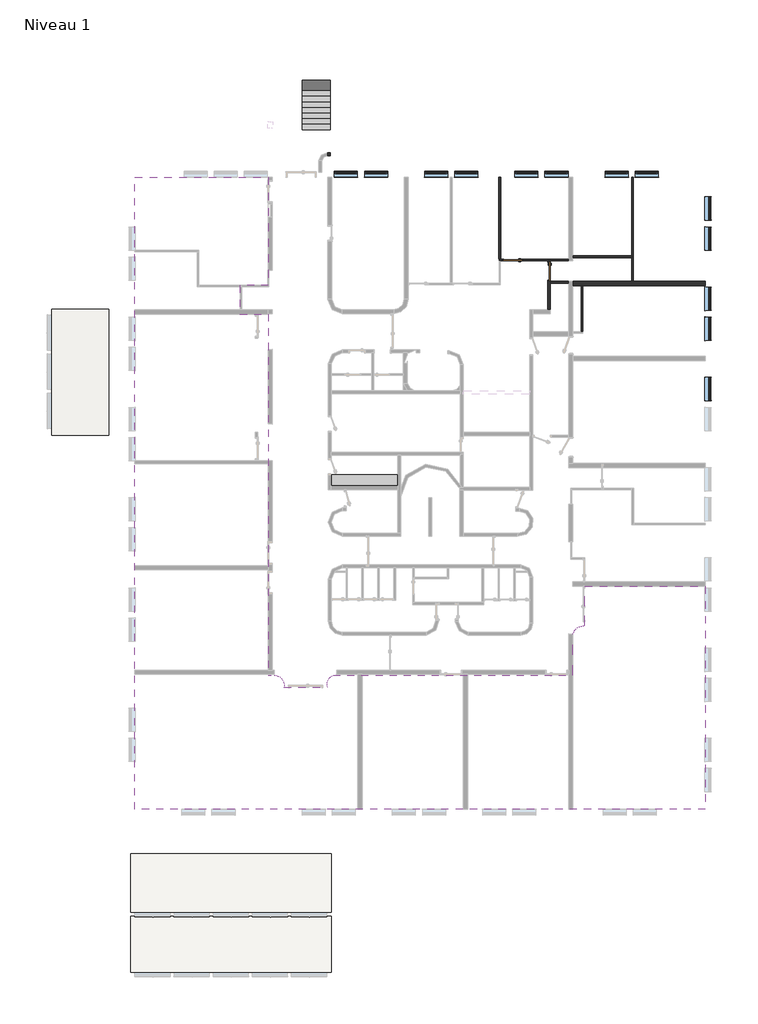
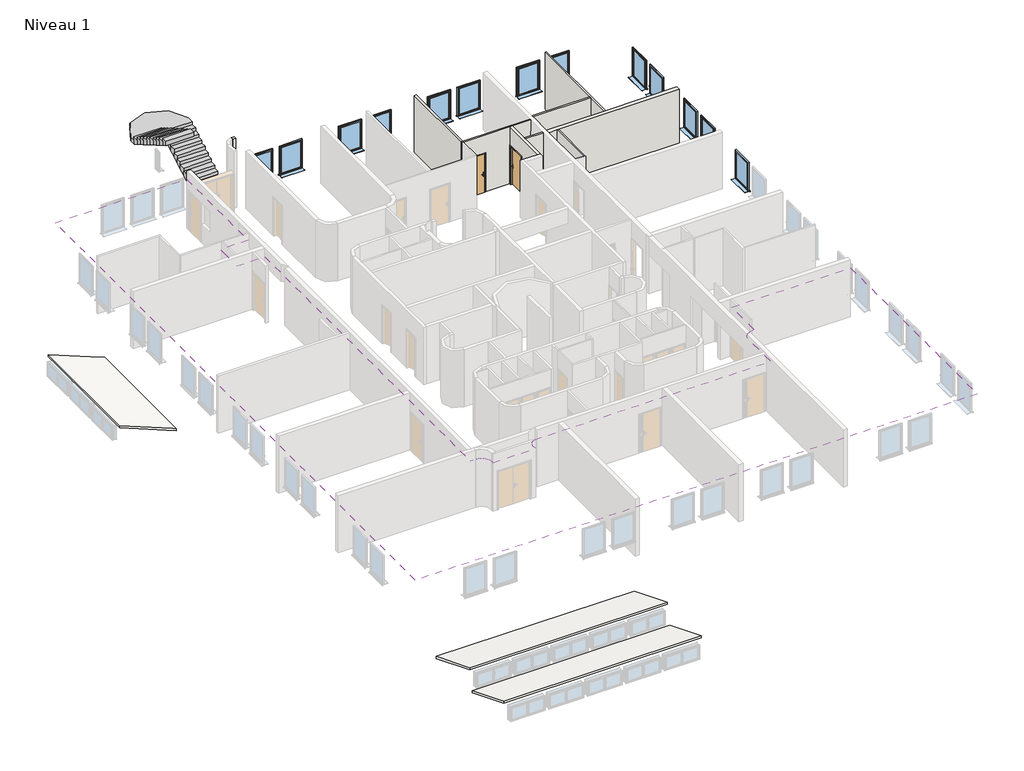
# One storey, part 5 of 5: 13 windows, 9 walls, 3 slabs, 2 doors, 1 covering, 1 proxy, 1 stair flight.
"""IFC4 building model written with IfcOpenShell, lengths in millimetres."""

from ifc_helpers import new_model, si_unit, point, frame, frame_2d, origin, place, context, project, spatial, polyline, circle_curve, ellipse_curve, trimmed, segment, composite_curve, outline, extrude, faceted_brep, transform, mapped, element, save
from ifc_brep_helpers import plane_surface, cylinder_surface, advanced_brep
from components import generic_models_af12e95c, door_1f1bc939, door_e56fa8e8, window_115_x_155_cm_24c5beae

model = new_model("IFC4")

# Units and contexts
model_context = context("Model", 3, world=origin())
ifc_project = project(units=[si_unit("LENGTHUNIT", "METRE", prefix="MILLI")], contexts=[model_context])

# Site, building, storey
site = spatial("IfcSite", under=ifc_project)
building = spatial("IfcBuilding", under=site)
storey = spatial("IfcBuildingStorey", under=building, Name="Niveau 1", Elevation=4121.8727639)

# Proxy
placement = place(None, origin())
generic_models_shape = generic_models_af12e95c(model_context)
element("IfcBuildingElementProxy", 1, Name="Plan de travail : Plan de travail", ObjectType="Plan de travail : Plan de travail", at=placement, inside=storey, context=model_context, shape_type="MappedRepresentation", body=[
    mapped(generic_models_shape, transform((0.0, 0.0, 760.0), x_axis=(1.0, 0.0, 0.0), y_axis=(0.0, 1.0, 0.0), z_axis=(0.0, 0.0, 1.0))),
])

# Covering
element("IfcCovering", 2, ObjectType="Normal", at=placement, inside=storey, context=model_context, shape_type="SweptSolid", body=[
    extrude(outline(composite_curve([segment(polyline([(-25593.9891731, -20956.25307), (-25593.9891731, 10570.8848592), (-18943.9891692, 10570.8848592), (-18943.9891515, 5170.8848591), (-20348.9891725, 5170.8848591), (-20348.9891725, 3740.884859), (-18943.9891466, 3740.884859), (-18944.0938653, -14269.1151394), (-18647.3087085, -14269.1151394)]), True, "CONTINUOUS"), segment(trimmed(circle_curve(frame_2d((-18651.5386239, -14774.0974241)), 505.0), [point((-18647.3087085, -14269.1151394))], [point((-18156.4904978, -14873.8589036))], False, "CARTESIAN"), True, "CONTINUOUS"), segment(polyline([(-18156.4904978, -14873.8589036), (-15983.4406805, -14873.8589036)]), True, "CONTINUOUS"), segment(trimmed(circle_curve(frame_2d((-15498.6625765, -14732.3838531)), 505.0), [point((-15983.4406805, -14873.8589036))], [point((-15699.6777475, -14269.1151394))], False, "CARTESIAN"), True, "CONTINUOUS"), segment(polyline([(-15699.6777475, -14269.1151394), (-3743.989174, -14269.1151394), (-3743.989174, -12231.7051111)]), True, "CONTINUOUS"), segment(trimmed(circle_curve(frame_2d((-3221.1378545, -12340.8568076)), 534.1232022), [point((-3743.989174, -12231.7051111))], [point((-3165.019318, -11809.68988))], False, "CARTESIAN"), True, "CONTINUOUS"), segment(polyline([(-3165.019318, -11809.68988), (-3165.019318, -9833.749432), (2847.4682683, -9833.7494331), (2847.4682683, -20956.25307), (-25593.9891731, -20956.25307)]), True, "CONTINUOUS")], self_intersect=False)), frame((0.0, 0.0, 6721.8727639), z_axis=(0.0, 0.0, 1.0), x_axis=(1.0, 0.0, 0.0)), (0.0, 0.0, 1.0), 50.0),
    extrude(outline(composite_curve([segment(polyline([(-15765.2391705, 10570.8848592), (2847.4682683, 10570.8848592), (2847.4682683, 5380.8848591), (-3743.989174, 5380.8848592), (-3743.989174, 6492.9785501), (-7443.5797272, 6492.9785501), (-7443.5797272, 5283.177026), (-12166.8528967, 5283.177026), (-12166.8528967, 4460.906658)]), True, "CONTINUOUS"), segment(trimmed(circle_curve(frame_2d((-12691.8542795, 4460.8830204)), 525.0013833), [point((-12166.8528967, 4460.906658))], [point((-12691.8542795, 3935.8816371))], False, "CARTESIAN"), True, "CONTINUOUS"), segment(polyline([(-12691.8542795, 3935.8816371), (-15180.2402775, 3935.8816371)]), True, "CONTINUOUS"), segment(trimmed(circle_curve(frame_2d((-15180.2402775, 4460.8783193)), 524.9966822), [point((-15180.2402775, 3935.8816371))], [point((-15705.2369597, 4460.8783193))], False, "CARTESIAN"), True, "CONTINUOUS"), segment(polyline([(-15705.2369597, 4460.8783193), (-15765.2391705, 10570.8848592)]), True, "CONTINUOUS")], self_intersect=False), holes=[polyline([(-820.3941617, 6652.9785501), (-3743.989174, 6652.9785501), (-3743.989174, 6552.9785501), (-820.3941617, 6552.9785501), (-820.3941617, 6652.9785501)])]), frame((0.0, 0.0, 6721.8727639), z_axis=(0.0, 0.0, 1.0), x_axis=(1.0, 0.0, 0.0)), (0.0, 0.0, 1.0), 50.0),
    extrude(outline(polyline([(-3165.019318, -8418.749432), (-3743.989174, -8418.749432), (-3743.989174, -3920.6566666), (2847.4682683, -3920.6566667), (2847.4682683, -9613.7494331), (-3165.019318, -9613.749432), (-3165.019318, -8418.749432)]), holes=[polyline([(-2240.3941617, -5024.1151408), (-815.3941617, -5024.1151408), (-815.3941617, -4954.1151408), (-2240.3941617, -4954.1151408), (-2240.3941617, -5024.1151408)])]), frame((0.0, 0.0, 6721.8727639), z_axis=(0.0, 0.0, 1.0), x_axis=(1.0, 0.0, 0.0)), (0.0, 0.0, 1.0), 50.0),
    extrude(outline(polyline([(-3743.989174, 5160.8848592), (2847.4682683, 5160.8848591), (2847.4682683, 1630.8848592), (-3743.989174, 1630.8848592), (-3743.989174, 5160.8848592)])), frame((0.0, 0.0, 6721.8727639), z_axis=(0.0, 0.0, 1.0), x_axis=(1.0, 0.0, 0.0)), (0.0, 0.0, 1.0), 50.0),
    extrude(outline(polyline([(-3743.989174, 1410.8848592), (2847.4682683, 1410.8848592), (2847.4682683, -3700.6566667), (-3743.989174, -3700.6566666), (-3743.989174, 1410.8848592)])), frame((0.0, 0.0, 6721.8727639), z_axis=(0.0, 0.0, 1.0), x_axis=(1.0, 0.0, 0.0)), (0.0, 0.0, 1.0), 50.0),
])

# Doors
door_shape = door_1f1bc939(model_context)
element("IfcDoor", 3, ObjectType="@_Int. Simple : @_PP (0.93m x 2.04m)", at=placement, inside=storey, context=model_context, shape_type="MappedRepresentation", body=[
    mapped(door_shape, transform((-4942.6180434, 5842.9785501, 4121.8727639), x_axis=(0.0, -1.0, 0.0), y_axis=(1.0, 0.0, 0.0), z_axis=(0.0, 0.0, 1.0))),
])
door_2_shape = door_e56fa8e8(model_context)
element("IfcDoor", 4, ObjectType="@_Int. Simple : @_PP (0.93m x 2.04m)", at=placement, inside=storey, context=model_context, shape_type="MappedRepresentation", body=[
    mapped(door_2_shape, transform((-6778.5797272, 6442.9785501, 4121.8727639), x_axis=(-1.0, 0.0, 0.0), y_axis=(0.0, -1.0, 0.0), z_axis=(0.0, 0.0, 1.0))),
])

# Slabs
element("IfcSlab", 5, ObjectType="étanchéité terrasse 100mm", at=placement, inside=storey, context=model_context, shape_type="Brep", body=[
    faceted_brep([(-15797.6697002, -26298.571453, 4006.1419488), (-15797.6697002, -29068.571453, 5125.2945943), (-25793.9891728, -29068.571453, 5125.2945943), (-25793.9891728, -26298.571453, 4006.1419488), (-15797.6697002, -26298.571453, 4113.995423), (-25793.9891728, -26298.571453, 4113.995423), (-25793.9891728, -29068.571453, 5233.1480686), (-15797.6697002, -29068.571453, 5233.1480686), (-15797.6697002, -29068.571453, 5232.7489541), (-15797.6697002, -29068.571453, 5132.7489541), (-25793.9891728, -29068.571453, 5232.7489541), (-25793.9891728, -29068.571453, 5132.7489541)], [[[0, 1, 2, 3]], [[4, 5, 6, 7]], [[1, 0, 4, 7, 8, 9]], [[2, 1, 9, 8, 7, 6, 10, 11]], [[3, 2, 11, 10, 6, 5]], [[0, 3, 5, 4]]]),
])
element("IfcSlab", 6, ObjectType="étanchéité terrasse 100mm", at=placement, inside=storey, context=model_context, shape_type="Brep", body=[
    faceted_brep([(-15797.6697002, -26078.571453, 5125.2945943), (-25793.9891728, -26078.571453, 5125.2945943), (-25793.9891728, -23177.8035198, 3953.3082742), (-15797.6697002, -23177.8035198, 3953.3082742), (-15797.6697002, -23425.3122051, 4053.3082742), (-15797.6697002, -26078.571453, 5233.1480686), (-15797.6697002, -23168.571453, 4057.4317514), (-25793.9891728, -23168.571453, 4057.4317514), (-25793.9891728, -26078.571453, 5233.1480686), (-15797.6697002, -26078.571453, 5232.7489541), (-15797.6697002, -26078.571453, 5132.7489541), (-15797.6697002, -23168.571453, 3953.3082742), (-15797.6697002, -23168.571453, 4053.3082742), (-25793.9891728, -26078.571453, 5232.7489541), (-25793.9891728, -26078.571453, 5132.7489541), (-25793.9891728, -23168.571453, 4053.3082742), (-25793.9891728, -23168.571453, 3953.3082742)], [[[0, 1, 2, 3, 4]], [[5, 6, 7, 8]], [[6, 5, 9, 10, 0, 4, 3, 11, 12]], [[1, 0, 10, 9, 5, 8, 13, 14]], [[8, 7, 15, 16, 2, 1, 14, 13]], [[7, 6, 12, 11, 16, 15]], [[3, 2, 16, 11]]]),
])
element("IfcSlab", 7, ObjectType="étanchéité terrasse 100mm", at=placement, inside=storey, context=model_context, shape_type="Brep", body=[
    faceted_brep([(-26893.5797272, -2292.822974, 3861.9003752), (-29743.5797272, -2292.822974, 5013.3751188), (-29743.5797272, 3982.177026, 5013.3751188), (-26893.5797272, 3982.177026, 3861.9003752), (-26893.5797272, -2292.822974, 3969.7538495), (-26893.5797272, 3982.177026, 3969.7538495), (-27100.3841855, 3982.177026, 4053.3082742), (-29743.5797272, 3982.177026, 5121.2285931), (-29743.5797272, -2292.822974, 5121.2285931), (-27100.3841855, -2292.822974, 4053.3082742), (-26893.5797272, -2292.822974, 3953.3082742), (-29743.5797272, -2292.822974, 5022.7489541), (-29743.5797272, 3982.177026, 5022.7489541), (-26893.5797272, 3982.177026, 3953.3082742)], [[[0, 1, 2, 3]], [[4, 5, 6, 7, 8, 9]], [[1, 0, 10, 4, 9, 8, 11]], [[2, 1, 11, 8, 7, 12]], [[3, 2, 12, 7, 6, 5, 13]], [[0, 3, 13, 5, 4, 10]]]),
])

# Stair flight
element("IfcStairFlight", 8, ObjectType="Profondeur de structure 200 mm", at=placement, inside=storey, context=model_context, shape_type="AdvancedBrep", body=[
    advanced_brep(
    [(-17244.0938634, 13218.7206382, 4284.1445394), (-17244.0938634, 12938.7206382, 4284.1445394), (-15835.8209314, 12938.7206382, 4284.1445394), (-15835.8209314, 13218.7206382, 4284.1445394), (-17244.0938634, 13218.7206382, 4121.8727639), (-17244.0938634, 12938.7206382, 4121.8727639), (-15835.8209314, 12938.7206382, 4121.8727639), (-15835.8209314, 13218.7206382, 4121.8727639), (-17244.0938634, 13498.7206382, 4446.4163149), (-17244.0938634, 13218.7206382, 4446.4163149), (-15835.8209314, 13218.7206382, 4446.4163149), (-15835.8209314, 13498.7206382, 4446.4163149), (-17244.0938634, 13498.7206382, 4215.2567169), (-17244.0938634, 13337.5865977, 4121.8727639), (-15835.8209314, 13337.5865977, 4121.8727639), (-15835.8209314, 13498.7206382, 4215.2567169), (-17244.0938634, 13778.7206382, 4608.6880904), (-17244.0938634, 13498.7206382, 4608.6880904), (-15835.8209314, 13498.7206382, 4608.6880904), (-15835.8209314, 13778.7206382, 4608.6880904), (-17244.0938634, 13778.7206382, 4377.5284924), (-15835.8209314, 13778.7206382, 4377.5284924), (-17244.0938634, 15458.7206382, 5351.1591455), (-17244.0938634, 15792.4865344, 5544.590519), (-15844.945821, 15792.4865344, 5544.590519), (-15835.8209314, 15675.5365527, 5476.8130862), (-15835.8209314, 15458.7206382, 5351.1591455), (-15835.8209314, 15178.7206382, 5188.88737), (-15835.8209314, 14898.7206382, 5026.6155945), (-15835.8209314, 14618.7206382, 4864.3438189), (-15835.8209314, 14338.7206382, 4702.0720434), (-15835.8209314, 14058.7206382, 4539.8002679), (-17244.0938634, 14058.7206382, 4539.8002679), (-17244.0938634, 14338.7206382, 4702.0720434), (-17244.0938634, 14618.7206382, 4864.3438189), (-17244.0938634, 14898.7206382, 5026.6155945), (-17244.0938634, 15178.7206382, 5188.88737), (-17244.0938634, 14058.7206382, 4770.9598659), (-17244.0938634, 13778.7206382, 4770.9598659), (-15835.8209314, 13778.7206382, 4770.9598659), (-15835.8209314, 14058.7206382, 4770.9598659), (-17244.0938634, 14338.7206382, 4933.2316414), (-17244.0938634, 14058.7206382, 4933.2316414), (-15835.8209314, 14058.7206382, 4933.2316414), (-15835.8209314, 14338.7206382, 4933.2316414), (-17244.0938634, 14618.7206382, 5095.503417), (-17244.0938634, 14338.7206382, 5095.503417), (-15835.8209314, 14338.7206382, 5095.503417), (-15835.8209314, 14618.7206382, 5095.503417), (-17244.0938634, 14898.7206382, 5257.7751925), (-17244.0938634, 14618.7206382, 5257.7751925), (-15835.8209314, 14618.7206382, 5257.7751925), (-15835.8209314, 14898.7206382, 5257.7751925), (-17244.0938634, 15178.7206382, 5420.046968), (-17244.0938634, 14898.7206382, 5420.046968), (-15835.8209314, 14898.7206382, 5420.046968), (-15835.8209314, 15178.7206382, 5420.046968), (-17244.0938634, 15458.7206382, 5582.3187435), (-17244.0938634, 15178.7206382, 5582.3187435), (-15835.8209314, 15178.7206382, 5582.3187435), (-15835.8209314, 15458.7206382, 5582.3187435), (-17344.0938634, 15538.7206382, 5744.590519), (-17344.0938634, 15658.8497737, 5744.590519), (-17244.0938634, 15658.8497737, 5744.590519), (-17244.0938634, 15458.7206382, 5744.590519), (-15835.8209314, 15458.7206382, 5744.590519), (-15835.8209314, 15675.5365527, 5744.590519), (-15844.945821, 15792.4865344, 5744.590519), (-18744.0938634, 15796.8921154, 5744.590519), (-18744.0938634, 15538.7206382, 5744.590519), (-17344.0938634, 15538.7206382, 5544.590519), (-17344.0938634, 15658.8497737, 5544.590519), (-17244.0938634, 15658.8497737, 5544.590519), (-17344.0938634, 15484.9547419, 5544.590519), (-18744.0938634, 15484.9547419, 5544.590519), (-18744.0938634, 15538.7206382, 5544.590519), (-18744.0938634, 15796.8921154, 5544.590519), (-17344.0938634, 15241.9204479, 5685.4391134), (-17344.0938634, 14978.7206382, 5837.9744721), (-17344.0938634, 14698.7206382, 6000.2462476), (-17344.0938634, 14418.7206382, 6162.5180231), (-17344.0938634, 14138.7206382, 6324.7897986), (-17344.0938634, 13858.7206382, 6487.0615741), (-17344.0938634, 13578.7206382, 6649.3333497), (-17344.0938634, 13298.7206382, 6811.6051252), (-17344.0938634, 13018.7206382, 6973.8769007), (-17344.0938634, 12738.7206382, 7136.1486762), (-18744.0938634, 12738.7206382, 7136.1486762), (-18744.0938634, 13018.7206382, 6973.8769007), (-18744.0938634, 13298.7206382, 6811.6051252), (-18744.0938634, 13578.7206382, 6649.3333497), (-18744.0938634, 13858.7206382, 6487.0615741), (-18744.0938634, 14138.7206382, 6324.7897986), (-18744.0938634, 14418.7206382, 6162.5180231), (-18744.0938634, 14698.7206382, 6000.2462476), (-18744.0938634, 14978.7206382, 5837.9744721), (-18744.0938634, 15241.9204479, 5685.4391134), (-17344.0938634, 15538.7206382, 5906.8622946), (-18744.0938634, 15538.7206382, 5906.8622946), (-18744.0938634, 15484.9547419, 5906.8622946), (-18744.0938634, 15241.9204479, 5906.8622946), (-17344.0938634, 15241.9204479, 5906.8622946), (-17344.0938634, 15484.9547419, 5906.8622946), (-17344.0938634, 14978.7206382, 6069.1340701), (-17344.0938634, 15241.9204479, 6069.1340701), (-18744.0938634, 15241.9204479, 6069.1340701), (-18744.0938634, 14978.7206382, 6069.1340701), (-17344.0938634, 14698.7206382, 6231.4058456), (-17344.0938634, 14978.7206382, 6231.4058456), (-18744.0938634, 14978.7206382, 6231.4058456), (-18744.0938634, 14698.7206382, 6231.4058456), (-17344.0938634, 14418.7206382, 6393.6776211), (-17344.0938634, 14698.7206382, 6393.6776211), (-18744.0938634, 14698.7206382, 6393.6776211), (-18744.0938634, 14418.7206382, 6393.6776211), (-17344.0938634, 14138.7206382, 6555.9493966), (-17344.0938634, 14418.7206382, 6555.9493966), (-18744.0938634, 14418.7206382, 6555.9493966), (-18744.0938634, 14138.7206382, 6555.9493966), (-17344.0938634, 13858.7206382, 6718.2211722), (-17344.0938634, 14138.7206382, 6718.2211722), (-18744.0938634, 14138.7206382, 6718.2211722), (-18744.0938634, 13858.7206382, 6718.2211722), (-17344.0938634, 13578.7206382, 6880.4929477), (-17344.0938634, 13858.7206382, 6880.4929477), (-18744.0938634, 13858.7206382, 6880.4929477), (-18744.0938634, 13578.7206382, 6880.4929477), (-17344.0938634, 13298.7206382, 7042.7647232), (-17344.0938634, 13578.7206382, 7042.7647232), (-18744.0938634, 13578.7206382, 7042.7647232), (-18744.0938634, 13298.7206382, 7042.7647232), (-17344.0938634, 13018.7206382, 7205.0364987), (-17344.0938634, 13298.7206382, 7205.0364987), (-18744.0938634, 13298.7206382, 7205.0364987), (-18744.0938634, 13018.7206382, 7205.0364987), (-17344.0938634, 12738.7206382, 7367.3082742), (-17344.0938634, 13018.7206382, 7367.3082742), (-18744.0938634, 13018.7206382, 7367.3082742), (-18744.0938634, 12738.7206382, 7367.3082742)],
    [
        (0, 1),
        (1, 2),
        (2, 3),
        (3, 0),
        (0, 4),
        (4, 5),
        (5, 1),
        (5, 6),
        (6, 2),
        (6, 7),
        (7, 3),
        (8, 9),
        (9, 10),
        (10, 11),
        (11, 8),
        (0, 9),
        (8, 12),
        (12, 13),
        (13, 4),
        (3, 10),
        (7, 14),
        (14, 15),
        (15, 11),
        (16, 17),
        (17, 18),
        (18, 19),
        (19, 16),
        (16, 20),
        (20, 12),
        (8, 17),
        (11, 18),
        (15, 21),
        (21, 19),
        (13, 14),
        (22, 23),
        (23, 24),
        (24, 25, ellipse_curve(frame((-17294.7844915, 15620.533548, 5444.9365318), z_axis=(0.0, 0.5014215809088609, -0.865203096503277), x_axis=(0.0, 0.865203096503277, 0.5014215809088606)), 1687.4650656, 1460.0)),
        (25, 26),
        (26, 27),
        (27, 28),
        (28, 29),
        (29, 30),
        (30, 31),
        (31, 21),
        (20, 32),
        (32, 33),
        (33, 34),
        (34, 35),
        (35, 36),
        (36, 22),
        (37, 38),
        (38, 39),
        (39, 40),
        (40, 37),
        (37, 32),
        (16, 38),
        (19, 39),
        (31, 40),
        (41, 42),
        (42, 43),
        (43, 44),
        (44, 41),
        (41, 33),
        (37, 42),
        (40, 43),
        (30, 44),
        (45, 46),
        (46, 47),
        (47, 48),
        (48, 45),
        (45, 34),
        (41, 46),
        (44, 47),
        (29, 48),
        (49, 50),
        (50, 51),
        (51, 52),
        (52, 49),
        (49, 35),
        (45, 50),
        (48, 51),
        (28, 52),
        (53, 54),
        (54, 55),
        (55, 56),
        (56, 53),
        (53, 36),
        (49, 54),
        (52, 55),
        (27, 56),
        (57, 58),
        (58, 59),
        (59, 60),
        (60, 57),
        (57, 22),
        (53, 58),
        (56, 59),
        (26, 60),
        (61, 62),
        (62, 63),
        (63, 64),
        (64, 65),
        (65, 66),
        (66, 67, circle_curve(frame((-17294.7844915, 15620.533548, 5744.590519), z_axis=(0.0, 0.0, 1.0), x_axis=(1.0, 0.0, 0.0)), 1460.0)),
        (67, 68, circle_curve(frame((-17294.7844915, 15620.533548, 5744.590519), z_axis=(0.0, 0.0, 1.0), x_axis=(1.0, 0.0, 0.0)), 1460.0)),
        (68, 69),
        (69, 61),
        (61, 70),
        (70, 71),
        (71, 62),
        (60, 65),
        (64, 57),
        (25, 66),
        (23, 72),
        (72, 71),
        (70, 73),
        (73, 74),
        (74, 75),
        (75, 76),
        (76, 24, circle_curve(frame((-17294.7844915, 15620.533548, 5544.590519), z_axis=(0.0, 0.0, -1.0), x_axis=(1.0, 0.0, 0.0)), 1460.0)),
        (73, 77),
        (77, 78),
        (78, 79),
        (79, 80),
        (80, 81),
        (81, 82),
        (82, 83),
        (83, 84),
        (84, 85),
        (85, 86),
        (86, 87),
        (87, 88),
        (88, 89),
        (89, 90),
        (90, 91),
        (91, 92),
        (92, 93),
        (93, 94),
        (94, 95),
        (95, 96),
        (96, 74),
        (72, 63),
        (76, 68),
        (75, 69),
        (97, 98),
        (98, 99),
        (99, 100),
        (100, 101),
        (101, 102),
        (102, 97),
        (61, 97),
        (101, 77),
        (69, 98),
        (96, 100),
        (103, 104),
        (104, 105),
        (105, 106),
        (106, 103),
        (103, 78),
        (101, 104),
        (100, 105),
        (95, 106),
        (107, 108),
        (108, 109),
        (109, 110),
        (110, 107),
        (107, 79),
        (103, 108),
        (106, 109),
        (94, 110),
        (111, 112),
        (112, 113),
        (113, 114),
        (114, 111),
        (111, 80),
        (107, 112),
        (110, 113),
        (93, 114),
        (115, 116),
        (116, 117),
        (117, 118),
        (118, 115),
        (115, 81),
        (111, 116),
        (114, 117),
        (92, 118),
        (119, 120),
        (120, 121),
        (121, 122),
        (122, 119),
        (119, 82),
        (115, 120),
        (118, 121),
        (91, 122),
        (123, 124),
        (124, 125),
        (125, 126),
        (126, 123),
        (123, 83),
        (119, 124),
        (122, 125),
        (90, 126),
        (127, 128),
        (128, 129),
        (129, 130),
        (130, 127),
        (127, 84),
        (123, 128),
        (126, 129),
        (89, 130),
        (131, 132),
        (132, 133),
        (133, 134),
        (134, 131),
        (131, 85),
        (127, 132),
        (130, 133),
        (88, 134),
        (135, 136),
        (136, 137),
        (137, 138),
        (138, 135),
        (135, 86),
        (131, 136),
        (134, 137),
        (87, 138),
    ],
    [
        plane_surface(frame((-17244.0938634, 15498.7206382, 4284.1445394), z_axis=(0.0, 0.0, 1.0), x_axis=(0.0, -1.0, 0.0))),
        plane_surface(frame((-17244.0938634, 13218.7206382, 4284.1445394), z_axis=(-1.0, 0.0, 0.0), x_axis=(0.0, 0.0, -1.0))),
        plane_surface(frame((-17244.0938634, 12938.7206382, 4284.1445394), z_axis=(0.0, -1.0, 0.0), x_axis=(0.0, 0.0, -1.0))),
        plane_surface(frame((-15835.8209314, 12938.7206382, 4284.1445394), z_axis=(1.0, 0.0, 0.0), x_axis=(0.0, 0.0, -1.0))),
        plane_surface(frame((-17244.0938634, 15778.7206382, 4446.4163149), z_axis=(0.0, 0.0, 1.0), x_axis=(0.0, -1.0, 0.0))),
        plane_surface(frame((-17244.0938634, 13498.7206382, 4446.4163149), z_axis=(-1.0, 0.0, 0.0), x_axis=(0.0, 0.0, -1.0))),
        plane_surface(frame((-17244.0938634, 13218.7206382, 4446.4163149), z_axis=(0.0, -1.0, 0.0), x_axis=(0.0, 0.0, -1.0))),
        plane_surface(frame((-15835.8209314, 13218.7206382, 4446.4163149), z_axis=(1.0, 0.0, 0.0), x_axis=(0.0, 0.0, -1.0))),
        plane_surface(frame((-17244.0938634, 16058.7206382, 4608.6880904), z_axis=(0.0, 0.0, 1.0), x_axis=(0.0, -1.0, 0.0))),
        plane_surface(frame((-17244.0938634, 13778.7206382, 4608.6880904), z_axis=(-1.0, 0.0, 0.0), x_axis=(0.0, 0.0, -1.0))),
        plane_surface(frame((-17244.0938634, 13498.7206382, 4608.6880904), z_axis=(0.0, -1.0, 0.0), x_axis=(0.0, 0.0, -1.0))),
        plane_surface(frame((-15835.8209314, 13498.7206382, 4608.6880904), z_axis=(1.0, 0.0, 0.0), x_axis=(0.0, 0.0, -1.0))),
        plane_surface(frame((0.0, 0.0, 4121.8727639), z_axis=(0.0, 0.0, -1.0), x_axis=(1.0, 0.0, 0.0))),
        plane_surface(frame((-16539.9573974, 12938.7206382, 3890.7131658), z_axis=(0.0, 0.5014215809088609, -0.865203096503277), x_axis=(1.0, 0.0, 0.0))),
        plane_surface(frame((-17244.0938634, 16338.7206382, 4770.9598659), z_axis=(0.0, 0.0, 1.0), x_axis=(0.0, -1.0, 0.0))),
        plane_surface(frame((-17244.0938634, 14058.7206382, 4770.9598659), z_axis=(-1.0, 0.0, 0.0), x_axis=(0.0, 0.0, -1.0))),
        plane_surface(frame((-17244.0938634, 13778.7206382, 4770.9598659), z_axis=(0.0, -1.0, 0.0), x_axis=(0.0, 0.0, -1.0))),
        plane_surface(frame((-15835.8209314, 13778.7206382, 4770.9598659), z_axis=(1.0, 0.0, 0.0), x_axis=(0.0, 0.0, -1.0))),
        plane_surface(frame((-17244.0938634, 16618.7206382, 4933.2316414), z_axis=(0.0, 0.0, 1.0), x_axis=(0.0, -1.0, 0.0))),
        plane_surface(frame((-17244.0938634, 14338.7206382, 4933.2316414), z_axis=(-1.0, 0.0, 0.0), x_axis=(0.0, 0.0, -1.0))),
        plane_surface(frame((-17244.0938634, 14058.7206382, 4933.2316414), z_axis=(0.0, -1.0, 0.0), x_axis=(0.0, 0.0, -1.0))),
        plane_surface(frame((-15835.8209314, 14058.7206382, 4933.2316414), z_axis=(1.0, 0.0, 0.0), x_axis=(0.0, 0.0, -1.0))),
        plane_surface(frame((-17244.0938634, 16898.7206382, 5095.503417), z_axis=(0.0, 0.0, 1.0), x_axis=(0.0, -1.0, 0.0))),
        plane_surface(frame((-17244.0938634, 14618.7206382, 5095.503417), z_axis=(-1.0, 0.0, 0.0), x_axis=(0.0, 0.0, -1.0))),
        plane_surface(frame((-17244.0938634, 14338.7206382, 5095.503417), z_axis=(0.0, -1.0, 0.0), x_axis=(0.0, 0.0, -1.0))),
        plane_surface(frame((-15835.8209314, 14338.7206382, 5095.503417), z_axis=(1.0, 0.0, 0.0), x_axis=(0.0, 0.0, -1.0))),
        plane_surface(frame((-17244.0938634, 17178.7206382, 5257.7751925), z_axis=(0.0, 0.0, 1.0), x_axis=(0.0, -1.0, 0.0))),
        plane_surface(frame((-17244.0938634, 14898.7206382, 5257.7751925), z_axis=(-1.0, 0.0, 0.0), x_axis=(0.0, 0.0, -1.0))),
        plane_surface(frame((-17244.0938634, 14618.7206382, 5257.7751925), z_axis=(0.0, -1.0, 0.0), x_axis=(0.0, 0.0, -1.0))),
        plane_surface(frame((-15835.8209314, 14618.7206382, 5257.7751925), z_axis=(1.0, 0.0, 0.0), x_axis=(0.0, 0.0, -1.0))),
        plane_surface(frame((-17244.0938634, 17458.7206382, 5420.046968), z_axis=(0.0, 0.0, 1.0), x_axis=(0.0, -1.0, 0.0))),
        plane_surface(frame((-17244.0938634, 15178.7206382, 5420.046968), z_axis=(-1.0, 0.0, 0.0), x_axis=(0.0, 0.0, -1.0))),
        plane_surface(frame((-17244.0938634, 14898.7206382, 5420.046968), z_axis=(0.0, -1.0, 0.0), x_axis=(0.0, 0.0, -1.0))),
        plane_surface(frame((-15835.8209314, 14898.7206382, 5420.046968), z_axis=(1.0, 0.0, 0.0), x_axis=(0.0, 0.0, -1.0))),
        plane_surface(frame((-17244.0938634, 17738.7206382, 5582.3187435), z_axis=(0.0, 0.0, 1.0), x_axis=(0.0, -1.0, 0.0))),
        plane_surface(frame((-17244.0938634, 15458.7206382, 5582.3187435), z_axis=(-1.0, 0.0, 0.0), x_axis=(0.0, 0.0, -1.0))),
        plane_surface(frame((-17244.0938634, 15178.7206382, 5582.3187435), z_axis=(0.0, -1.0, 0.0), x_axis=(0.0, 0.0, -1.0))),
        plane_surface(frame((-15835.8209314, 15178.7206382, 5582.3187435), z_axis=(1.0, 0.0, 0.0), x_axis=(0.0, 0.0, -1.0))),
        plane_surface(frame((-17344.0938634, 15498.7206382, 5744.590519), z_axis=(0.0, 0.0, 1.0), x_axis=(0.0, 1.0, 0.0))),
        plane_surface(frame((-17344.0938634, 15538.7206382, 5744.590519), z_axis=(1.0, 0.0, 0.0), x_axis=(0.0, 0.0, -1.0))),
        plane_surface(frame((-17244.0938634, 15458.7206382, 5744.590519), z_axis=(0.0, -1.0, 0.0), x_axis=(0.0, 0.0, -1.0))),
        plane_surface(frame((-15835.8209314, 15458.7206382, 5744.590519), z_axis=(1.0, 0.0, 0.0), x_axis=(0.0, 0.0, -1.0))),
        plane_surface(frame((-17344.0938634, 15498.7206382, 5544.590519), z_axis=(0.0, 0.0, -1.0), x_axis=(0.0, -1.0, 0.0))),
        plane_surface(frame((-18044.0938634, 15538.7206382, 5513.430921), z_axis=(0.0, -0.5014215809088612, -0.8652030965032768), x_axis=(1.0, 0.0, 0.0))),
        plane_surface(frame((-17344.0938634, 15658.8497737, 5744.590519), z_axis=(0.0, -1.0, 0.0), x_axis=(0.0, 0.0, -1.0))),
        plane_surface(frame((-17244.0938634, 15658.8497737, 5744.590519), z_axis=(-1.0, 0.0, 0.0), x_axis=(0.0, 0.0, -1.0))),
        cylinder_surface(frame((-17294.7844915, 15620.533548, 4933.2316414), z_axis=(0.0, 0.0, 1.0), x_axis=(1.0, 0.0, 0.0)), 1460.0),
        plane_surface(frame((-18744.0938634, 15796.8921154, 5744.590519), z_axis=(-1.0, 0.0, 0.0), x_axis=(0.0, 0.0, -1.0))),
        plane_surface(frame((-17344.0938634, 15498.7206382, 5906.8622946), z_axis=(0.0, 0.0, 1.0), x_axis=(0.0, 1.0, 0.0))),
        plane_surface(frame((-17344.0938634, 15241.9204479, 5906.8622946), z_axis=(1.0, 0.0, 0.0), x_axis=(0.0, 0.0, -1.0))),
        plane_surface(frame((-17344.0938634, 15538.7206382, 5906.8622946), z_axis=(0.0, 1.0, 0.0), x_axis=(0.0, 0.0, -1.0))),
        plane_surface(frame((-18744.0938634, 15538.7206382, 5906.8622946), z_axis=(-1.0, 0.0, 0.0), x_axis=(0.0, 0.0, -1.0))),
        plane_surface(frame((-17344.0938634, 15498.7206382, 6069.1340701), z_axis=(0.0, 0.0, 1.0), x_axis=(0.0, 1.0, 0.0))),
        plane_surface(frame((-17344.0938634, 14978.7206382, 6069.1340701), z_axis=(1.0, 0.0, 0.0), x_axis=(0.0, 0.0, -1.0))),
        plane_surface(frame((-17344.0938634, 15241.9204479, 6069.1340701), z_axis=(0.0, 1.0, 0.0), x_axis=(0.0, 0.0, -1.0))),
        plane_surface(frame((-18744.0938634, 15241.9204479, 6069.1340701), z_axis=(-1.0, 0.0, 0.0), x_axis=(0.0, 0.0, -1.0))),
        plane_surface(frame((-17344.0938634, 15498.7206382, 6231.4058456), z_axis=(0.0, 0.0, 1.0), x_axis=(0.0, 1.0, 0.0))),
        plane_surface(frame((-17344.0938634, 14698.7206382, 6231.4058456), z_axis=(1.0, 0.0, 0.0), x_axis=(0.0, 0.0, -1.0))),
        plane_surface(frame((-17344.0938634, 14978.7206382, 6231.4058456), z_axis=(0.0, 1.0, 0.0), x_axis=(0.0, 0.0, -1.0))),
        plane_surface(frame((-18744.0938634, 14978.7206382, 6231.4058456), z_axis=(-1.0, 0.0, 0.0), x_axis=(0.0, 0.0, -1.0))),
        plane_surface(frame((-17344.0938634, 15218.7206382, 6393.6776211), z_axis=(0.0, 0.0, 1.0), x_axis=(0.0, 1.0, 0.0))),
        plane_surface(frame((-17344.0938634, 14418.7206382, 6393.6776211), z_axis=(1.0, 0.0, 0.0), x_axis=(0.0, 0.0, -1.0))),
        plane_surface(frame((-17344.0938634, 14698.7206382, 6393.6776211), z_axis=(0.0, 1.0, 0.0), x_axis=(0.0, 0.0, -1.0))),
        plane_surface(frame((-18744.0938634, 14698.7206382, 6393.6776211), z_axis=(-1.0, 0.0, 0.0), x_axis=(0.0, 0.0, -1.0))),
        plane_surface(frame((-17344.0938634, 14938.7206382, 6555.9493966), z_axis=(0.0, 0.0, 1.0), x_axis=(0.0, 1.0, 0.0))),
        plane_surface(frame((-17344.0938634, 14138.7206382, 6555.9493966), z_axis=(1.0, 0.0, 0.0), x_axis=(0.0, 0.0, -1.0))),
        plane_surface(frame((-17344.0938634, 14418.7206382, 6555.9493966), z_axis=(0.0, 1.0, 0.0), x_axis=(0.0, 0.0, -1.0))),
        plane_surface(frame((-18744.0938634, 14418.7206382, 6555.9493966), z_axis=(-1.0, 0.0, 0.0), x_axis=(0.0, 0.0, -1.0))),
        plane_surface(frame((-17344.0938634, 14658.7206382, 6718.2211722), z_axis=(0.0, 0.0, 1.0), x_axis=(0.0, 1.0, 0.0))),
        plane_surface(frame((-17344.0938634, 13858.7206382, 6718.2211722), z_axis=(1.0, 0.0, 0.0), x_axis=(0.0, 0.0, -1.0))),
        plane_surface(frame((-17344.0938634, 14138.7206382, 6718.2211722), z_axis=(0.0, 1.0, 0.0), x_axis=(0.0, 0.0, -1.0))),
        plane_surface(frame((-18744.0938634, 14138.7206382, 6718.2211722), z_axis=(-1.0, 0.0, 0.0), x_axis=(0.0, 0.0, -1.0))),
        plane_surface(frame((-17344.0938634, 14378.7206382, 6880.4929477), z_axis=(0.0, 0.0, 1.0), x_axis=(0.0, 1.0, 0.0))),
        plane_surface(frame((-17344.0938634, 13578.7206382, 6880.4929477), z_axis=(1.0, 0.0, 0.0), x_axis=(0.0, 0.0, -1.0))),
        plane_surface(frame((-17344.0938634, 13858.7206382, 6880.4929477), z_axis=(0.0, 1.0, 0.0), x_axis=(0.0, 0.0, -1.0))),
        plane_surface(frame((-18744.0938634, 13858.7206382, 6880.4929477), z_axis=(-1.0, 0.0, 0.0), x_axis=(0.0, 0.0, -1.0))),
        plane_surface(frame((-17344.0938634, 14098.7206382, 7042.7647232), z_axis=(0.0, 0.0, 1.0), x_axis=(0.0, 1.0, 0.0))),
        plane_surface(frame((-17344.0938634, 13298.7206382, 7042.7647232), z_axis=(1.0, 0.0, 0.0), x_axis=(0.0, 0.0, -1.0))),
        plane_surface(frame((-17344.0938634, 13578.7206382, 7042.7647232), z_axis=(0.0, 1.0, 0.0), x_axis=(0.0, 0.0, -1.0))),
        plane_surface(frame((-18744.0938634, 13578.7206382, 7042.7647232), z_axis=(-1.0, 0.0, 0.0), x_axis=(0.0, 0.0, -1.0))),
        plane_surface(frame((-17344.0938634, 13818.7206382, 7205.0364987), z_axis=(0.0, 0.0, 1.0), x_axis=(0.0, 1.0, 0.0))),
        plane_surface(frame((-17344.0938634, 13018.7206382, 7205.0364987), z_axis=(1.0, 0.0, 0.0), x_axis=(0.0, 0.0, -1.0))),
        plane_surface(frame((-17344.0938634, 13298.7206382, 7205.0364987), z_axis=(0.0, 1.0, 0.0), x_axis=(0.0, 0.0, -1.0))),
        plane_surface(frame((-18744.0938634, 13298.7206382, 7205.0364987), z_axis=(-1.0, 0.0, 0.0), x_axis=(0.0, 0.0, -1.0))),
        plane_surface(frame((-17344.0938634, 13538.7206382, 7367.3082742), z_axis=(0.0, 0.0, 1.0), x_axis=(0.0, 1.0, 0.0))),
        plane_surface(frame((-17344.0938634, 12738.7206382, 7367.3082742), z_axis=(1.0, 0.0, 0.0), x_axis=(0.0, 0.0, -1.0))),
        plane_surface(frame((-17344.0938634, 13018.7206382, 7367.3082742), z_axis=(0.0, 1.0, 0.0), x_axis=(0.0, 0.0, -1.0))),
        plane_surface(frame((-18744.0938634, 13018.7206382, 7367.3082742), z_axis=(-1.0, 0.0, 0.0), x_axis=(0.0, 0.0, -1.0))),
        plane_surface(frame((-18744.0938634, 12738.7206382, 7367.3082742), z_axis=(0.0, -1.0, 0.0), x_axis=(0.0, 0.0, -1.0))),
    ],
    [
        (0, [[1, 2, 3, 4]]),
        (1, [[-1, 5, 6, 7]]),
        (2, [[-2, -7, 8, 9]]),
        (3, [[-3, -9, 10, 11]]),
        (4, [[12, 13, 14, 15]]),
        (5, [[-5, 16, -12, 17, 18, 19]]),
        (6, [[-4, 20, -13, -16]]),
        (7, [[-11, 21, 22, 23, -14, -20]]),
        (8, [[24, 25, 26, 27]]),
        (9, [[-24, 28, 29, -17, 30]]),
        (10, [[-15, 31, -25, -30]]),
        (11, [[-26, -31, -23, 32, 33]]),
        (12, [[-6, -19, 34, -21, -10, -8]]),
        (13, [[35, 36, 37, 38, 39, 40, 41, 42, 43, 44, -32, -22, -34, -18, -29, 45, 46, 47, 48, 49, 50]]),
        (14, [[51, 52, 53, 54]]),
        (15, [[-51, 55, -45, -28, 56]]),
        (16, [[-27, 57, -52, -56]]),
        (17, [[-53, -57, -33, -44, 58]]),
        (18, [[59, 60, 61, 62]]),
        (19, [[-59, 63, -46, -55, 64]]),
        (20, [[-54, 65, -60, -64]]),
        (21, [[-61, -65, -58, -43, 66]]),
        (22, [[67, 68, 69, 70]]),
        (23, [[-67, 71, -47, -63, 72]]),
        (24, [[-62, 73, -68, -72]]),
        (25, [[-69, -73, -66, -42, 74]]),
        (26, [[75, 76, 77, 78]]),
        (27, [[-75, 79, -48, -71, 80]]),
        (28, [[-70, 81, -76, -80]]),
        (29, [[-77, -81, -74, -41, 82]]),
        (30, [[83, 84, 85, 86]]),
        (31, [[-83, 87, -49, -79, 88]]),
        (32, [[-78, 89, -84, -88]]),
        (33, [[-85, -89, -82, -40, 90]]),
        (34, [[91, 92, 93, 94]]),
        (35, [[-91, 95, -50, -87, 96]]),
        (36, [[-86, 97, -92, -96]]),
        (37, [[-93, -97, -90, -39, 98]]),
        (38, [[99, 100, 101, 102, 103, 104, 105, 106, 107]]),
        (39, [[-99, 108, 109, 110]]),
        (40, [[-94, 111, -102, 112]]),
        (41, [[-103, -111, -98, -38, 113]]),
        (42, [[-36, 114, 115, -109, 116, 117, 118, 119, 120]]),
        (43, [[-117, 121, 122, 123, 124, 125, 126, 127, 128, 129, 130, 131, 132, 133, 134, 135, 136, 137, 138, 139, 140, 141]]),
        (44, [[-100, -110, -115, 142]]),
        (45, [[-101, -142, -114, -35, -95, -112]]),
        (46, [[-104, -113, -37, -120, 143, -105]]),
        (47, [[-106, -143, -119, 144]]),
        (48, [[145, 146, 147, 148, 149, 150]]),
        (49, [[151, -150, -149, 152, -121, -116, -108]]),
        (50, [[-107, 153, -145, -151]]),
        (51, [[-153, -144, -118, -141, 154, -147, -146]]),
        (52, [[155, 156, 157, 158]]),
        (53, [[-155, 159, -122, -152, 160]]),
        (54, [[-148, 161, -156, -160]]),
        (55, [[-157, -161, -154, -140, 162]]),
        (56, [[163, 164, 165, 166]]),
        (57, [[-163, 167, -123, -159, 168]]),
        (58, [[-158, 169, -164, -168]]),
        (59, [[-165, -169, -162, -139, 170]]),
        (60, [[171, 172, 173, 174]]),
        (61, [[-171, 175, -124, -167, 176]]),
        (62, [[-166, 177, -172, -176]]),
        (63, [[-173, -177, -170, -138, 178]]),
        (64, [[179, 180, 181, 182]]),
        (65, [[-179, 183, -125, -175, 184]]),
        (66, [[-174, 185, -180, -184]]),
        (67, [[-181, -185, -178, -137, 186]]),
        (68, [[187, 188, 189, 190]]),
        (69, [[-187, 191, -126, -183, 192]]),
        (70, [[-182, 193, -188, -192]]),
        (71, [[-189, -193, -186, -136, 194]]),
        (72, [[195, 196, 197, 198]]),
        (73, [[-195, 199, -127, -191, 200]]),
        (74, [[-190, 201, -196, -200]]),
        (75, [[-197, -201, -194, -135, 202]]),
        (76, [[203, 204, 205, 206]]),
        (77, [[-203, 207, -128, -199, 208]]),
        (78, [[-198, 209, -204, -208]]),
        (79, [[-205, -209, -202, -134, 210]]),
        (80, [[211, 212, 213, 214]]),
        (81, [[-211, 215, -129, -207, 216]]),
        (82, [[-206, 217, -212, -216]]),
        (83, [[-213, -217, -210, -133, 218]]),
        (84, [[219, 220, 221, 222]]),
        (85, [[-219, 223, -130, -215, 224]]),
        (86, [[-214, 225, -220, -224]]),
        (87, [[-221, -225, -218, -132, 226]]),
        (88, [[-222, -226, -131, -223]]),
    ],
),
])

# Walls
element("IfcWall", 9, ObjectType="@_Générique - Int. 120 mm", at=placement, inside=storey, context=model_context, shape_type="Brep", body=[
    faceted_brep([(-5002.6180434, 3950.8848626, 7167.3082742), (-5002.6180434, 6407.9785501, 7167.3082742), (-5002.6180434, 6407.9785501, 4121.8727639), (-5002.6180434, 6377.9785501, 4121.8727639), (-5002.6180434, 6377.9785501, 6196.8727639), (-5002.6180434, 5377.9785501, 6196.8727639), (-5002.6180434, 5377.9785501, 4121.8727639), (-5002.6180434, 3950.8848626, 4121.8727639), (-4882.6180434, 6407.9785501, 7167.3082742), (-4882.6180434, 5370.8848592, 7167.3082742), (-4882.6180434, 5270.8848592, 7167.3082742), (-4882.6180434, 3950.8848626, 7167.3082742), (-4882.6180434, 3950.8848626, 4121.8727639), (-4882.6180434, 5270.8848592, 4121.8727639), (-4882.6180434, 5370.8848592, 4121.8727639), (-4882.6180434, 5377.9785501, 4121.8727639), (-4882.6180434, 5377.9785501, 6196.8727639), (-4882.6180434, 6377.9785501, 6196.8727639), (-4882.6180434, 6377.9785501, 4121.8727639), (-4882.6180434, 6407.9785501, 4121.8727639)], [[[0, 1, 2, 3, 4, 5, 6, 7]], [[8, 9, 10, 11, 12, 13, 14, 15, 16, 17, 18, 19]], [[12, 7, 6, 15, 14, 13]], [[2, 19, 18, 3]], [[1, 0, 11, 10, 9, 8]], [[0, 7, 12, 11]], [[2, 1, 8, 19]], [[5, 16, 15, 6]], [[16, 5, 4, 17]], [[17, 4, 3, 18]]]),
])
element("IfcWall", 10, ObjectType="@_Générique - Int. 100 mm", at=placement, inside=storey, context=model_context, shape_type="SweptSolid", body=[
    extrude(outline(polyline([(-7443.5797272, 6492.9785501), (-7443.5797272, 10570.8848592), (-7343.5797272, 10570.8848592), (-7343.5797272, 6492.9785501), (-7443.5797272, 6492.9785501)])), frame((0.0, 0.0, 4121.8727639), z_axis=(0.0, 0.0, 1.0), x_axis=(1.0, 0.0, 0.0)), (0.0, 0.0, 1.0), 3045.4355104),
])
element("IfcWall", 11, ObjectType="@_Générique - Int. 100 mm", at=placement, inside=storey, context=model_context, shape_type="SweptSolid", body=[
    extrude(outline(polyline([(-4882.6180434, 5370.8848592), (-3943.989174, 5370.8848592), (-3943.989174, 5270.8848592), (-4882.6180434, 5270.8848592), (-4882.6180434, 5370.8848592)])), frame((0.0, 0.0, 4121.8727639), z_axis=(0.0, 0.0, 1.0), x_axis=(1.0, 0.0, 0.0)), (0.0, 0.0, 1.0), 3045.4355104),
])
element("IfcWall", 12, ObjectType="@_Générique - Int. 100 mm", at=placement, inside=storey, context=model_context, shape_type="Brep", body=[
    faceted_brep([(-820.3941617, 6652.9785501, 4121.8727639), (-3743.989174, 6652.9785501, 4121.8727639), (-3743.989174, 6652.9785501, 6721.8727639), (-3743.989174, 6652.9785501, 6771.8727639), (-3743.989174, 6652.9785501, 7167.3082742), (-820.3941617, 6652.9785501, 7167.3082742), (-820.3941617, 6652.9785501, 6771.8727639), (-820.3941617, 6652.9785501, 6721.8727639), (-820.3941617, 6552.9785501, 4121.8727639), (-820.3941617, 6552.9785501, 6721.8727639), (-820.3941617, 6552.9785501, 6771.8727639), (-820.3941617, 6552.9785501, 7167.3082742), (-3743.989174, 6552.9785501, 7167.3082742), (-3743.989174, 6552.9785501, 6771.8727639), (-3743.989174, 6552.9785501, 6721.8727639), (-3743.989174, 6552.9785501, 4121.8727639)], [[[0, 1, 2, 3, 4, 5, 6, 7]], [[8, 9, 10, 11, 12, 13, 14, 15]], [[1, 0, 8, 15]], [[5, 4, 12, 11]], [[4, 3, 2, 1, 15, 14, 13, 12]], [[0, 7, 6, 5, 11, 10, 9, 8]]]),
])
element("IfcWall", 13, ObjectType="@_Générique - Int. 70 mm", at=placement, inside=storey, context=model_context, shape_type="Brep", body=[
    faceted_brep([(-820.3941617, 10570.8848592, 4121.8727639), (-820.3941617, 6652.9785501, 4121.8727639), (-820.3941617, 6552.9785501, 4121.8727639), (-820.3941617, 5380.8848592, 4121.8727639), (-820.3941617, 5380.8848592, 7167.3082742), (-820.3941617, 6552.9785501, 7167.3082742), (-820.3941617, 6652.9785501, 7167.3082742), (-820.3941617, 10570.8848592, 7167.3082742), (-750.3941617, 10570.8848592, 4121.8727639), (-750.3941617, 10570.8848592, 7167.3082742), (-750.3941617, 5380.8848592, 7167.3082742), (-750.3941617, 5380.8848592, 4121.8727639)], [[[0, 1, 2, 3, 4, 5, 6, 7]], [[8, 9, 10, 11]], [[3, 2, 1, 0, 8, 11]], [[7, 6, 5, 4, 10, 9]], [[0, 7, 9, 8]], [[4, 3, 11, 10]]]),
])
element("IfcWall", 14, ObjectType="@_Générique - Int. 70 mm", at=placement, inside=storey, context=model_context, shape_type="SweptSolid", body=[
    extrude(outline(polyline([(-3327.6180434, 2849.6432161), (-3327.6180434, 5160.8848592), (-3257.6180434, 5160.8848592), (-3257.6180434, 2849.6432161), (-3327.6180434, 2849.6432161)])), frame((0.0, 0.0, 4121.8727639), z_axis=(0.0, 0.0, 1.0), x_axis=(1.0, 0.0, 0.0)), (0.0, 0.0, 1.0), 3045.4355104),
])
element("IfcWall", 15, ObjectType="@_Générique - Int. 150 mm", at=placement, inside=storey, context=model_context, shape_type="SweptSolid", body=[
    extrude(outline(polyline([(-16002.054988, 11790.8848592), (-15835.8209314, 11790.8848592), (-15835.8209314, 11640.8848592), (-15998.4558377, 11640.8848592), (-16002.054988, 11790.8848592)])), frame((0.0, 0.0, 4121.8727639), z_axis=(0.0, 0.0, 1.0), x_axis=(1.0, 0.0, 0.0)), (0.0, 0.0, 1.0), 3045.4355104),
])
element("IfcWall", 16, ObjectType="Ext. Voile BA 200 Brique", at=placement, inside=storey, context=model_context, shape_type="Brep", body=[
    faceted_brep([(-3743.989174, 5160.8848592, 4121.8727639), (-3327.6180434, 5160.8848592, 4121.8727639), (-3257.6180434, 5160.8848592, 4121.8727639), (2847.4682683, 5160.8848591, 4121.8727639), (2847.4682683, 5160.8848591, 6721.8727639), (2847.4682683, 5160.8848591, 6771.8727639), (2847.4682683, 5160.8848591, 7167.3082742), (-3257.6180434, 5160.8848592, 7167.3082742), (-3327.6180434, 5160.8848592, 7167.3082742), (-3743.989174, 5160.8848592, 7167.3082742), (-3743.989174, 5160.8848592, 6771.8727639), (-3743.989174, 5160.8848592, 6721.8727639), (-3743.989174, 5380.8848592, 4121.8727639), (-3743.989174, 5380.8848592, 6560.2727639), (-3743.989174, 5380.8848592, 6721.8727639), (-3743.989174, 5380.8848592, 6771.8727639), (-3743.989174, 5380.8848592, 7167.3082742), (-820.3941617, 5380.8848592, 7167.3082742), (-750.3941617, 5380.8848592, 7167.3082742), (2847.4682683, 5380.8848591, 7167.3082742), (2847.4682683, 5380.8848591, 6771.8727639), (2847.4682683, 5380.8848591, 6721.8727639), (2847.4682683, 5380.8848591, 4121.8727639), (-750.3941617, 5380.8848592, 4121.8727639), (-820.3941617, 5380.8848592, 4121.8727639)], [[[0, 1, 2, 3, 4, 5, 6, 7, 8, 9, 10, 11]], [[12, 13, 14, 15, 16, 17, 18, 19, 20, 21, 22, 23, 24]], [[3, 2, 1, 0, 12, 24, 23, 22]], [[6, 5, 4, 3, 22, 21, 20, 19]], [[9, 8, 7, 6, 19, 18, 17, 16]], [[0, 11, 10, 9, 16, 15, 14, 13, 12]]]),
])
element("IfcWall", 17, ObjectType="Mur en verre 70", at=placement, inside=storey, context=model_context, shape_type="Brep", body=[
    faceted_brep([(-7428.5797272, 6477.9785501, 7167.3082742), (-3943.989174, 6477.9785501, 7167.3082742), (-3943.989174, 6477.9785501, 4121.8727639), (-6243.5797272, 6477.9785501, 4121.8727639), (-6243.5797272, 6477.9785501, 6196.8727639), (-7243.5797272, 6477.9785501, 6196.8727639), (-7243.5797272, 6477.9785501, 4121.8727639), (-7428.5797272, 6477.9785501, 4121.8727639), (-3943.989174, 6407.9785501, 7167.3082742), (-7358.5797272, 6407.9785501, 7167.3082742), (-7428.5797272, 6407.9785501, 7167.3082742), (-7428.5797272, 6407.9785501, 4121.8727639), (-7358.5797272, 6407.9785501, 4121.8727639), (-7243.5797272, 6407.9785501, 4121.8727639), (-7243.5797272, 6407.9785501, 6196.8727639), (-6243.5797272, 6407.9785501, 6196.8727639), (-6243.5797272, 6407.9785501, 4121.8727639), (-3943.989174, 6407.9785501, 4121.8727639)], [[[0, 1, 2, 3, 4, 5, 6, 7]], [[8, 9, 10, 11, 12, 13, 14, 15, 16, 17]], [[11, 7, 6, 13, 12]], [[2, 17, 16, 3]], [[1, 0, 10, 9, 8]], [[0, 7, 11, 10]], [[5, 14, 13, 6]], [[14, 5, 4, 15]], [[15, 4, 3, 16]], [[2, 1, 8, 17]]]),
])

# Windows
window_115_x_155_cm_shape = window_115_x_155_cm_24c5beae(model_context)
element("IfcWindow", 18, ObjectType="Fenêtre type 1 : 115 x 155 cm", at=placement, inside=storey, context=model_context, shape_type="MappedRepresentation", body=[
    mapped(window_115_x_155_cm_shape, transform((-15064.0938634, 10695.8848592, 4321.8727639), x_axis=(1.0, 0.0, 0.0), y_axis=(0.0, 1.0, 0.0), z_axis=(0.0, 0.0, 1.0))),
])
element("IfcWindow", 19, ObjectType="Fenêtre type 1 : 115 x 155 cm", at=placement, inside=storey, context=model_context, shape_type="MappedRepresentation", body=[
    mapped(window_115_x_155_cm_shape, transform((-13564.0938634, 10695.8848592, 4321.8727639), x_axis=(1.0, 0.0, 0.0), y_axis=(0.0, 1.0, 0.0), z_axis=(0.0, 0.0, 1.0))),
])
element("IfcWindow", 20, ObjectType="Fenêtre type 1 : 115 x 155 cm", at=placement, inside=storey, context=model_context, shape_type="MappedRepresentation", body=[
    mapped(window_115_x_155_cm_shape, transform((-10564.0938634, 10695.8848592, 4321.8727639), x_axis=(1.0, 0.0, 0.0), y_axis=(0.0, 1.0, 0.0), z_axis=(0.0, 0.0, 1.0))),
])
element("IfcWindow", 21, ObjectType="Fenêtre type 1 : 115 x 155 cm", at=placement, inside=storey, context=model_context, shape_type="MappedRepresentation", body=[
    mapped(window_115_x_155_cm_shape, transform((-9064.0938634, 10695.8848592, 4321.8727639), x_axis=(1.0, 0.0, 0.0), y_axis=(0.0, 1.0, 0.0), z_axis=(0.0, 0.0, 1.0))),
])
element("IfcWindow", 22, ObjectType="Fenêtre type 1 : 115 x 155 cm", at=placement, inside=storey, context=model_context, shape_type="MappedRepresentation", body=[
    mapped(window_115_x_155_cm_shape, transform((-6064.0938634, 10695.8848592, 4321.8727639), x_axis=(1.0, 0.0, 0.0), y_axis=(0.0, 1.0, 0.0), z_axis=(0.0, 0.0, 1.0))),
])
element("IfcWindow", 23, ObjectType="Fenêtre type 1 : 115 x 155 cm", at=placement, inside=storey, context=model_context, shape_type="MappedRepresentation", body=[
    mapped(window_115_x_155_cm_shape, transform((-1564.0938634, 10695.8848592, 4321.8727639), x_axis=(1.0, 0.0, 0.0), y_axis=(0.0, 1.0, 0.0), z_axis=(0.0, 0.0, 1.0))),
])
element("IfcWindow", 24, ObjectType="Fenêtre type 1 : 115 x 155 cm", at=placement, inside=storey, context=model_context, shape_type="MappedRepresentation", body=[
    mapped(window_115_x_155_cm_shape, transform((-4564.0938634, 10695.8848592, 4321.8727639), x_axis=(1.0, 0.0, 0.0), y_axis=(0.0, 1.0, 0.0), z_axis=(0.0, 0.0, 1.0))),
])
element("IfcWindow", 25, ObjectType="Fenêtre type 1 : 115 x 155 cm", at=placement, inside=storey, context=model_context, shape_type="MappedRepresentation", body=[
    mapped(window_115_x_155_cm_shape, transform((-64.0938634, 10695.8848592, 4321.8727639), x_axis=(1.0, 0.0, 0.0), y_axis=(0.0, 1.0, 0.0), z_axis=(0.0, 0.0, 1.0))),
])
element("IfcWindow", 26, ObjectType="Fenêtre type 1 : 115 x 155 cm", at=placement, inside=storey, context=model_context, shape_type="MappedRepresentation", body=[
    mapped(window_115_x_155_cm_shape, transform((2972.4682683, 9005.177026, 4321.8727639), x_axis=(0.0, -1.0, 0.0), y_axis=(1.0, 0.0, 0.0), z_axis=(0.0, 0.0, 1.0))),
])
element("IfcWindow", 27, ObjectType="Fenêtre type 1 : 115 x 155 cm", at=placement, inside=storey, context=model_context, shape_type="MappedRepresentation", body=[
    mapped(window_115_x_155_cm_shape, transform((2972.4682683, 7505.177026, 4321.8727639), x_axis=(0.0, -1.0, 0.0), y_axis=(1.0, 0.0, 0.0), z_axis=(0.0, 0.0, 1.0))),
])
element("IfcWindow", 28, ObjectType="Fenêtre type 1 : 115 x 155 cm", at=placement, inside=storey, context=model_context, shape_type="MappedRepresentation", body=[
    mapped(window_115_x_155_cm_shape, transform((2972.4682683, 4505.177026, 4321.8727639), x_axis=(0.0, -1.0, 0.0), y_axis=(1.0, 0.0, 0.0), z_axis=(0.0, 0.0, 1.0))),
])
element("IfcWindow", 29, ObjectType="Fenêtre type 1 : 115 x 155 cm", at=placement, inside=storey, context=model_context, shape_type="MappedRepresentation", body=[
    mapped(window_115_x_155_cm_shape, transform((2972.4682683, 3005.177026, 4321.8727639), x_axis=(0.0, -1.0, 0.0), y_axis=(1.0, 0.0, 0.0), z_axis=(0.0, 0.0, 1.0))),
])
element("IfcWindow", 30, ObjectType="Fenêtre type 1 : 115 x 155 cm", at=placement, inside=storey, context=model_context, shape_type="MappedRepresentation", body=[
    mapped(window_115_x_155_cm_shape, transform((2972.4682683, 5.177026, 4321.8727639), x_axis=(0.0, -1.0, 0.0), y_axis=(1.0, 0.0, 0.0), z_axis=(0.0, 0.0, 1.0))),
])

save(model, "model.ifc")
